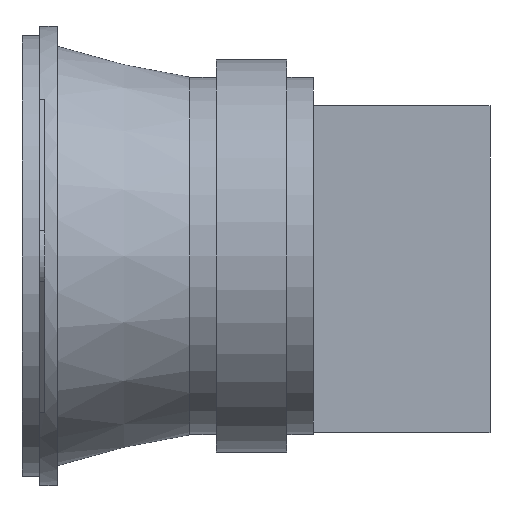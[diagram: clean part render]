
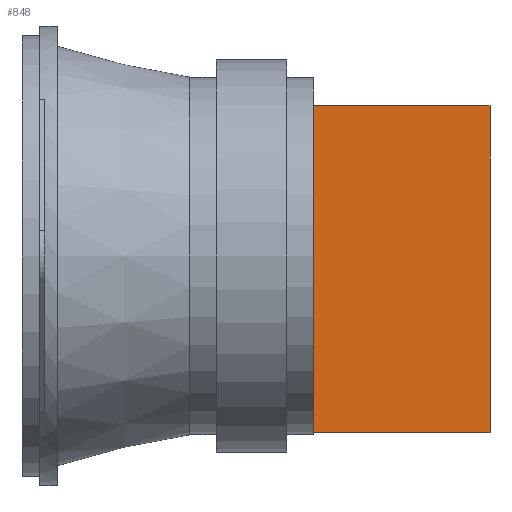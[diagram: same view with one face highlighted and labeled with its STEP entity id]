
A CAD part, left-side view. The second image highlights one B-rep face of the part: STEP entity #848.
In plain terms, the highlighted planar face has unit normal (-1, 0, 0).
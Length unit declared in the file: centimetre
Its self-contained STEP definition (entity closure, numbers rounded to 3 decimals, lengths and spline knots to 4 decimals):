
#57=LINE('',#1386,#113);
#58=LINE('',#1389,#114);
#59=LINE('',#1391,#115);
#60=LINE('',#1392,#116);
#113=VECTOR('',#1129,1.);
#114=VECTOR('',#1132,1.);
#115=VECTOR('',#1133,1.);
#116=VECTOR('',#1134,1.);
#154=PLANE('',#934);
#238=FACE_OUTER_BOUND('',#312,.T.);
#312=EDGE_LOOP('',(#694,#695,#696,#697));
#452=VERTEX_POINT('',#1382);
#453=VERTEX_POINT('',#1384);
#454=VERTEX_POINT('',#1388);
#455=VERTEX_POINT('',#1390);
#545=EDGE_CURVE('',#452,#453,#57,.T.);
#546=EDGE_CURVE('',#452,#454,#58,.T.);
#547=EDGE_CURVE('',#455,#453,#59,.T.);
#548=EDGE_CURVE('',#454,#455,#60,.T.);
#694=ORIENTED_EDGE('',*,*,#546,.F.);
#695=ORIENTED_EDGE('',*,*,#545,.T.);
#696=ORIENTED_EDGE('',*,*,#547,.F.);
#697=ORIENTED_EDGE('',*,*,#548,.F.);
#848=ADVANCED_FACE('',(#238),#154,.T.);
#934=AXIS2_PLACEMENT_3D('',#1387,#1130,#1131);
#1129=DIRECTION('',(0.,1.,0.));
#1130=DIRECTION('center_axis',(-1.,0.,0.));
#1131=DIRECTION('ref_axis',(0.,0.,1.));
#1132=DIRECTION('',(0.,0.,-1.));
#1133=DIRECTION('',(0.,0.,1.));
#1134=DIRECTION('',(0.,1.,0.));
#1382=CARTESIAN_POINT('',(3.5,-5.1,1.7));
#1384=CARTESIAN_POINT('',(3.5,-2.6,1.7));
#1386=CARTESIAN_POINT('',(3.5,-5.1,1.7));
#1387=CARTESIAN_POINT('Origin',(3.5,-5.1,-2.));
#1388=CARTESIAN_POINT('',(3.5,-5.1,-2.));
#1389=CARTESIAN_POINT('',(3.5,-5.1,1.7));
#1390=CARTESIAN_POINT('',(3.5,-2.6,-2.));
#1391=CARTESIAN_POINT('',(3.5,-2.6,1.7));
#1392=CARTESIAN_POINT('',(3.5,-5.1,-2.));
